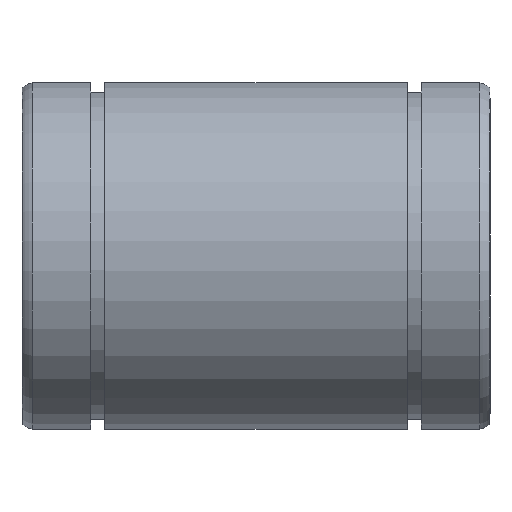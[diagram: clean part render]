
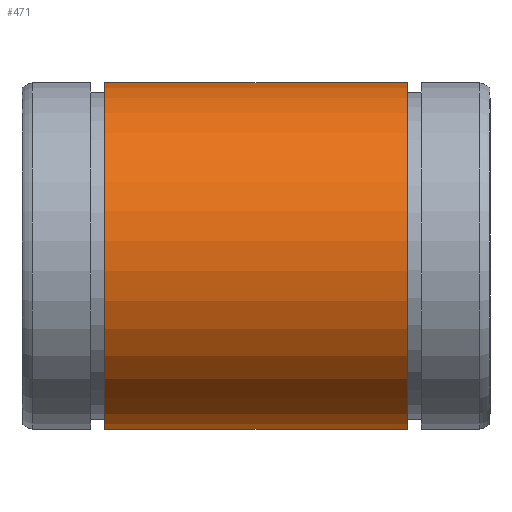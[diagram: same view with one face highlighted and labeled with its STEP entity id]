
A CAD part, top view. The second image highlights one B-rep face of the part: STEP entity #471.
In plain terms, the highlighted cylindrical face has radius 26 mm (diameter 52 mm), a partial arc.
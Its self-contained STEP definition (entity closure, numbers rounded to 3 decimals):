
#90=CARTESIAN_POINT('',(12.35,10.842,-23.631));
#91=VERTEX_POINT('',#90);
#98=CARTESIAN_POINT('',(57.65,10.842,-23.631));
#99=VERTEX_POINT('',#98);
#100=CARTESIAN_POINT('',(57.65,10.842,-23.631));
#101=DIRECTION('',(-1.0,0.0,0.0));
#102=VECTOR('',#101,45.3);
#103=LINE('',#100,#102);
#104=EDGE_CURVE('',#99,#91,#103,.T.);
#327=CARTESIAN_POINT('',(57.65,-10.842,-23.631));
#328=VERTEX_POINT('',#327);
#335=CARTESIAN_POINT('',(12.35,-10.842,-23.631));
#336=VERTEX_POINT('',#335);
#337=CARTESIAN_POINT('',(12.35,-10.842,-23.631));
#338=DIRECTION('',(1.0,0.0,0.0));
#339=VECTOR('',#338,45.3);
#340=LINE('',#337,#339);
#341=EDGE_CURVE('',#336,#328,#340,.T.);
#442=CARTESIAN_POINT('',(12.35,0.0,0.));
#443=DIRECTION('',(-1.0,0.0,0.0));
#444=DIRECTION('',(0.0,0.0,1.0));
#445=AXIS2_PLACEMENT_3D('',#442,#443,#444);
#446=CIRCLE('',#445,26.);
#447=EDGE_CURVE('',#336,#91,#446,.T.);
#454=CARTESIAN_POINT('',(35.,0.0,0.));
#455=DIRECTION('',(-1.0,0.0,0.0));
#456=DIRECTION('',(0.0,0.0,1.0));
#457=AXIS2_PLACEMENT_3D('',#454,#455,#456);
#458=CYLINDRICAL_SURFACE('',#457,26.);
#459=ORIENTED_EDGE('',*,*,#341,.T.);
#460=CARTESIAN_POINT('',(57.65,0.0,0.));
#461=DIRECTION('',(-1.0,0.0,0.0));
#462=DIRECTION('',(0.0,0.0,1.0));
#463=AXIS2_PLACEMENT_3D('',#460,#461,#462);
#464=CIRCLE('',#463,26.);
#465=EDGE_CURVE('',#328,#99,#464,.T.);
#466=ORIENTED_EDGE('',*,*,#465,.T.);
#467=ORIENTED_EDGE('',*,*,#104,.T.);
#468=ORIENTED_EDGE('',*,*,#447,.F.);
#469=EDGE_LOOP('',(#459,#466,#467,#468));
#470=FACE_OUTER_BOUND('',#469,.T.);
#471=ADVANCED_FACE('',(#470),#458,.T.);
